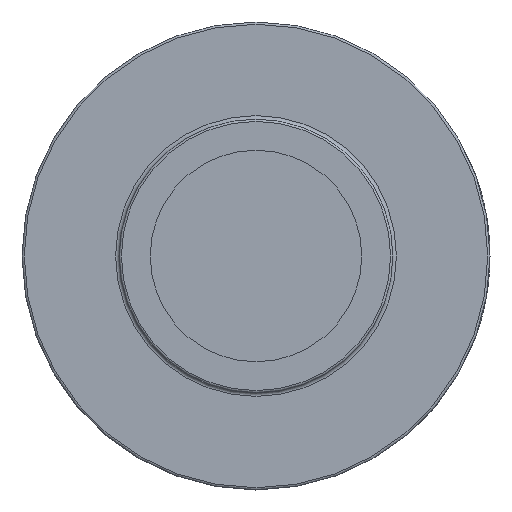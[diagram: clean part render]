
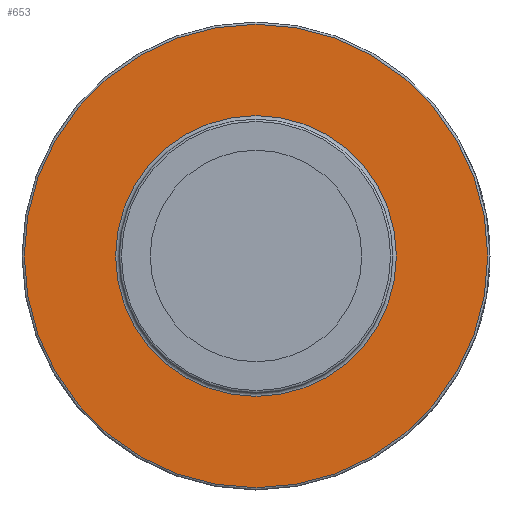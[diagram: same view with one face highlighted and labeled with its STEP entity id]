
A CAD part, left-side view. The second image highlights one B-rep face of the part: STEP entity #653.
In plain terms, the highlighted planar face has unit normal (-1, 0, 0).
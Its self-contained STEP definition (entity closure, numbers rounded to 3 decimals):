
#653 = ADVANCED_FACE( '', ( #1353, #1354 ), #1355, .F. );
#1353 = FACE_BOUND( '', #2994, .T. );
#1354 = FACE_OUTER_BOUND( '', #2995, .T. );
#1355 = PLANE( '', #2996 );
#2994 = EDGE_LOOP( '', ( #4763 ) );
#2995 = EDGE_LOOP( '', ( #4764 ) );
#2996 = AXIS2_PLACEMENT_3D( '', #4765, #4766, #4767 );
#4763 = ORIENTED_EDGE( '', *, *, #4992, .F. );
#4764 = ORIENTED_EDGE( '', *, *, #5487, .T. );
#4765 = CARTESIAN_POINT( '', ( 34.004, 0., 31.426 ) );
#4766 = DIRECTION( '', ( 1., 0., 0. ) );
#4767 = DIRECTION( '', ( 0., 0., -1. ) );
#4992 = EDGE_CURVE( '', #5858, #5858, #5859, .T. );
#5487 = EDGE_CURVE( '', #6594, #6594, #6595, .T. );
#5858 = VERTEX_POINT( '', #7247 );
#5859 = CIRCLE( '', #7248, 31.426 );
#6594 = VERTEX_POINT( '', #8906 );
#6595 = CIRCLE( '', #8907, 51.88 );
#7247 = CARTESIAN_POINT( '', ( 34.004, 0., 31.426 ) );
#7248 = AXIS2_PLACEMENT_3D( '', #9249, #9250, #9251 );
#8906 = CARTESIAN_POINT( '', ( 34.004, 0., 51.879 ) );
#8907 = AXIS2_PLACEMENT_3D( '', #9294, #9295, #9296 );
#9249 = CARTESIAN_POINT( '', ( 34.004, 0., 0. ) );
#9250 = DIRECTION( '', ( -1., 0., 0. ) );
#9251 = DIRECTION( '', ( 0., 0., 1. ) );
#9294 = CARTESIAN_POINT( '', ( 34.004, 0., 0. ) );
#9295 = DIRECTION( '', ( -1., 0., 0. ) );
#9296 = DIRECTION( '', ( 0., 0., 1. ) );
